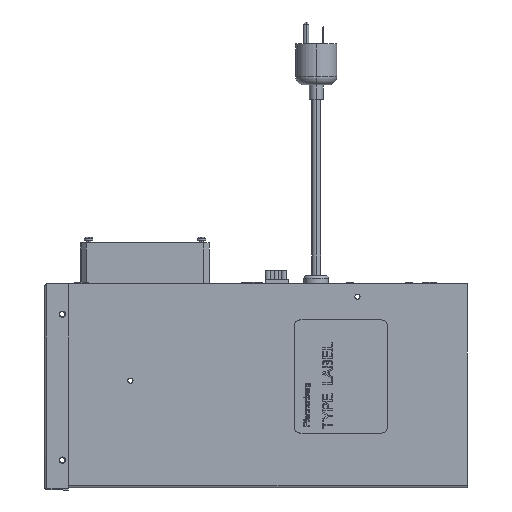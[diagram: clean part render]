
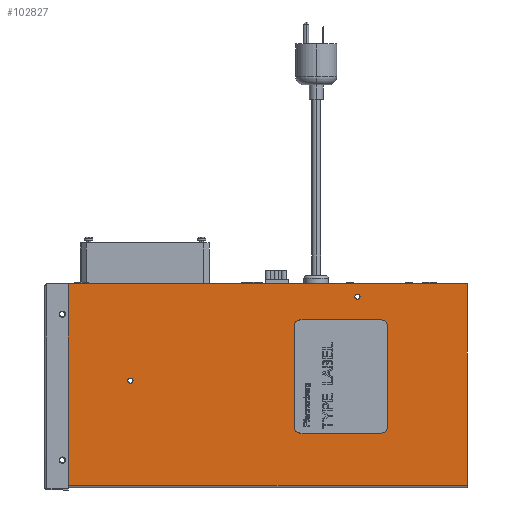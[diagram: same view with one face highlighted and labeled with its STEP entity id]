
A CAD part, left-side view. The second image highlights one B-rep face of the part: STEP entity #102827.
In plain terms, the highlighted planar face has unit normal (-1, 0, 0).
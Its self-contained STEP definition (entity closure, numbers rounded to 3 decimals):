
#1494 = DIRECTION ( 'NONE',  ( 0., -1., 0. ) ) ;
#3864 = VERTEX_POINT ( 'NONE', #60565 ) ;
#5973 = CARTESIAN_POINT ( 'NONE',  ( -88.9, 0., 187.3 ) ) ;
#6125 = EDGE_CURVE ( 'NONE', #113274, #107731, #129959, .T. ) ;
#7509 = ORIENTED_EDGE ( 'NONE', *, *, #89385, .T. ) ;
#7720 = CIRCLE ( 'NONE', #16672, 2.4 ) ;
#8122 = ORIENTED_EDGE ( 'NONE', *, *, #93809, .F. ) ;
#10015 = DIRECTION ( 'NONE',  ( 0., 0., 1. ) ) ;
#10178 = CARTESIAN_POINT ( 'NONE',  ( -88.9, 287.882, 12.009 ) ) ;
#10319 = ORIENTED_EDGE ( 'NONE', *, *, #56201, .T. ) ;
#13101 = CARTESIAN_POINT ( 'NONE',  ( -88.9, 390., 187.3 ) ) ;
#15833 = DIRECTION ( 'NONE',  ( 0., 0., 1. ) ) ;
#16355 = CARTESIAN_POINT ( 'NONE',  ( -88.9, 11.429, 0. ) ) ;
#16672 = AXIS2_PLACEMENT_3D ( 'NONE', #149046, #73411, #161778 ) ;
#19374 = EDGE_LOOP ( 'NONE', ( #26591, #61869 ) ) ;
#20852 = VECTOR ( 'NONE', #43423, 1000. ) ;
#21216 = VERTEX_POINT ( 'NONE', #112598 ) ;
#22868 = DIRECTION ( 'NONE',  ( 0., 0., 1. ) ) ;
#24797 = EDGE_CURVE ( 'NONE', #107731, #21216, #44232, .T. ) ;
#25942 = CARTESIAN_POINT ( 'NONE',  ( -88.9, 200.714, -189.286 ) ) ;
#26564 = FACE_OUTER_BOUND ( 'NONE', #150049, .T. ) ;
#26591 = ORIENTED_EDGE ( 'NONE', *, *, #158272, .F. ) ;
#34653 = CIRCLE ( 'NONE', #120213, 2.4 ) ;
#35145 = VECTOR ( 'NONE', #109493, 1000. ) ;
#35825 = CARTESIAN_POINT ( 'NONE',  ( -88.9, 13.72, 28.2 ) ) ;
#36920 = EDGE_CURVE ( 'NONE', #109295, #3864, #50251, .T. ) ;
#40236 = AXIS2_PLACEMENT_3D ( 'NONE', #130961, #55417, #143751 ) ;
#41092 = CIRCLE ( 'NONE', #40236, 2.4 ) ;
#42920 = ORIENTED_EDGE ( 'NONE', *, *, #48911, .F. ) ;
#43423 = DIRECTION ( 'NONE',  ( 0., 0., 1. ) ) ;
#43900 = VERTEX_POINT ( 'NONE', #55611 ) ;
#44232 = LINE ( 'NONE', #25942, #73808 ) ;
#44622 = CARTESIAN_POINT ( 'NONE',  ( -88.9, 390., 0. ) ) ;
#45054 = AXIS2_PLACEMENT_3D ( 'NONE', #44622, #132847, #57291 ) ;
#45549 = VERTEX_POINT ( 'NONE', #120120 ) ;
#47182 = ORIENTED_EDGE ( 'NONE', *, *, #6125, .T. ) ;
#47484 = AXIS2_PLACEMENT_3D ( 'NONE', #161246, #85568, #10015 ) ;
#47746 = AXIS2_PLACEMENT_3D ( 'NONE', #60590, #148916, #73272 ) ;
#47976 = AXIS2_PLACEMENT_3D ( 'NONE', #10178, #98403, #22868 ) ;
#48469 = DIRECTION ( 'NONE',  ( 0., 0., 1. ) ) ;
#48911 = EDGE_CURVE ( 'NONE', #129838, #43900, #34653, .T. ) ;
#50251 = CIRCLE ( 'NONE', #47484, 2.4 ) ;
#55250 = ORIENTED_EDGE ( 'NONE', *, *, #24797, .T. ) ;
#55417 = DIRECTION ( 'NONE',  ( -1., 0., 0. ) ) ;
#55611 = CARTESIAN_POINT ( 'NONE',  ( -88.9, 287.882, 9.609 ) ) ;
#55746 = EDGE_CURVE ( 'NONE', #88043, #89934, #133858, .T. ) ;
#56201 = EDGE_CURVE ( 'NONE', #21216, #45549, #127833, .T. ) ;
#57291 = DIRECTION ( 'NONE',  ( 0., 0., -1. ) ) ;
#58308 = EDGE_LOOP ( 'NONE', ( #42920, #95051 ) ) ;
#59171 = CIRCLE ( 'NONE', #148697, 2.4 ) ;
#59350 = EDGE_CURVE ( 'NONE', #43900, #129838, #72159, .T. ) ;
#60117 = FACE_BOUND ( 'NONE', #131523, .T. ) ;
#60565 = CARTESIAN_POINT ( 'NONE',  ( -88.9, 13.72, 30.6 ) ) ;
#60590 = CARTESIAN_POINT ( 'NONE',  ( -88.9, 13.72, 163.769 ) ) ;
#61869 = ORIENTED_EDGE ( 'NONE', *, *, #36920, .F. ) ;
#66699 = ORIENTED_EDGE ( 'NONE', *, *, #129626, .F. ) ;
#67977 = ORIENTED_EDGE ( 'NONE', *, *, #70637, .F. ) ;
#70329 = CARTESIAN_POINT ( 'NONE',  ( -88.9, 390., 2.129 ) ) ;
#70637 = EDGE_CURVE ( 'NONE', #89934, #88043, #41092, .T. ) ;
#71622 = CARTESIAN_POINT ( 'NONE',  ( -88.9, 287.882, 12.009 ) ) ;
#72159 = CIRCLE ( 'NONE', #47976, 2.4 ) ;
#72877 = EDGE_CURVE ( 'NONE', #113274, #147546, #121464, .T. ) ;
#73232 = CARTESIAN_POINT ( 'NONE',  ( -88.9, 76.992, 90.033 ) ) ;
#73272 = DIRECTION ( 'NONE',  ( 0., 0., 1. ) ) ;
#73411 = DIRECTION ( 'NONE',  ( -1., 0., 0. ) ) ;
#73808 = VECTOR ( 'NONE', #144380, 1000. ) ;
#79023 = CARTESIAN_POINT ( 'NONE',  ( -88.9, 390., 187.3 ) ) ;
#81839 = LINE ( 'NONE', #118395, #107481 ) ;
#83145 = CIRCLE ( 'NONE', #153417, 2.4 ) ;
#84335 = DIRECTION ( 'NONE',  ( 0., 0., 1. ) ) ;
#85568 = DIRECTION ( 'NONE',  ( -1., 0., 0. ) ) ;
#85893 = DIRECTION ( 'NONE',  ( 0., 0., 1. ) ) ;
#88043 = VERTEX_POINT ( 'NONE', #118201 ) ;
#89385 = EDGE_CURVE ( 'NONE', #45549, #134062, #81839, .T. ) ;
#89676 = VECTOR ( 'NONE', #1494, 1000. ) ;
#89934 = VERTEX_POINT ( 'NONE', #154746 ) ;
#93618 = FACE_BOUND ( 'NONE', #19374, .T. ) ;
#93638 = CARTESIAN_POINT ( 'NONE',  ( -88.9, 390., 0. ) ) ;
#93809 = EDGE_CURVE ( 'NONE', #149708, #125277, #83145, .T. ) ;
#95051 = ORIENTED_EDGE ( 'NONE', *, *, #59350, .F. ) ;
#98403 = DIRECTION ( 'NONE',  ( -1., 0., 0. ) ) ;
#102827 = ADVANCED_FACE ( 'NONE', ( #127188, #160879, #93618, #60117, #26564 ), #107475, .F. ) ;
#103728 = ORIENTED_EDGE ( 'NONE', *, *, #72877, .F. ) ;
#107475 = PLANE ( 'NONE',  #45054 ) ;
#107481 = VECTOR ( 'NONE', #15833, 1000. ) ;
#107638 = EDGE_CURVE ( 'NONE', #147546, #134062, #131161, .T. ) ;
#107731 = VERTEX_POINT ( 'NONE', #16355 ) ;
#109295 = VERTEX_POINT ( 'NONE', #134559 ) ;
#109493 = DIRECTION ( 'NONE',  ( 0., -1., 0. ) ) ;
#112111 = CARTESIAN_POINT ( 'NONE',  ( -88.9, 76.992, 87.633 ) ) ;
#112138 = DIRECTION ( 'NONE',  ( 0., -1., 0. ) ) ;
#112598 = CARTESIAN_POINT ( 'NONE',  ( -88.9, 9.3, 2.129 ) ) ;
#113274 = VERTEX_POINT ( 'NONE', #160435 ) ;
#118201 = CARTESIAN_POINT ( 'NONE',  ( -88.9, 13.72, 166.169 ) ) ;
#118395 = CARTESIAN_POINT ( 'NONE',  ( -88.9, 0., 0. ) ) ;
#120120 = CARTESIAN_POINT ( 'NONE',  ( -88.9, 0., 2.129 ) ) ;
#120213 = AXIS2_PLACEMENT_3D ( 'NONE', #71622, #159998, #84335 ) ;
#121464 = LINE ( 'NONE', #131635, #20852 ) ;
#123988 = DIRECTION ( 'NONE',  ( -1., 0., 0. ) ) ;
#125277 = VERTEX_POINT ( 'NONE', #127350 ) ;
#125999 = VECTOR ( 'NONE', #112138, 1000. ) ;
#127188 = FACE_BOUND ( 'NONE', #149383, .T. ) ;
#127350 = CARTESIAN_POINT ( 'NONE',  ( -88.9, 76.992, 92.433 ) ) ;
#127833 = LINE ( 'NONE', #70329, #35145 ) ;
#128427 = CARTESIAN_POINT ( 'NONE',  ( -88.9, 287.882, 14.409 ) ) ;
#129626 = EDGE_CURVE ( 'NONE', #125277, #149708, #7720, .T. ) ;
#129838 = VERTEX_POINT ( 'NONE', #128427 ) ;
#129959 = LINE ( 'NONE', #93638, #125999 ) ;
#130961 = CARTESIAN_POINT ( 'NONE',  ( -88.9, 13.72, 163.769 ) ) ;
#131161 = LINE ( 'NONE', #13101, #89676 ) ;
#131523 = EDGE_LOOP ( 'NONE', ( #147616, #67977 ) ) ;
#131635 = CARTESIAN_POINT ( 'NONE',  ( -88.9, 390., 0. ) ) ;
#132847 = DIRECTION ( 'NONE',  ( 1., 0., 0. ) ) ;
#133858 = CIRCLE ( 'NONE', #47746, 2.4 ) ;
#134062 = VERTEX_POINT ( 'NONE', #5973 ) ;
#134559 = CARTESIAN_POINT ( 'NONE',  ( -88.9, 13.72, 25.8 ) ) ;
#137388 = ORIENTED_EDGE ( 'NONE', *, *, #107638, .F. ) ;
#143751 = DIRECTION ( 'NONE',  ( 0., 0., 1. ) ) ;
#144380 = DIRECTION ( 'NONE',  ( 0., -0.707, 0.707 ) ) ;
#147546 = VERTEX_POINT ( 'NONE', #79023 ) ;
#147616 = ORIENTED_EDGE ( 'NONE', *, *, #55746, .F. ) ;
#148697 = AXIS2_PLACEMENT_3D ( 'NONE', #35825, #123988, #48469 ) ;
#148916 = DIRECTION ( 'NONE',  ( -1., 0., 0. ) ) ;
#149046 = CARTESIAN_POINT ( 'NONE',  ( -88.9, 76.992, 90.033 ) ) ;
#149383 = EDGE_LOOP ( 'NONE', ( #66699, #8122 ) ) ;
#149708 = VERTEX_POINT ( 'NONE', #112111 ) ;
#150049 = EDGE_LOOP ( 'NONE', ( #55250, #10319, #7509, #137388, #103728, #47182 ) ) ;
#153417 = AXIS2_PLACEMENT_3D ( 'NONE', #73232, #161594, #85893 ) ;
#154746 = CARTESIAN_POINT ( 'NONE',  ( -88.9, 13.72, 161.369 ) ) ;
#158272 = EDGE_CURVE ( 'NONE', #3864, #109295, #59171, .T. ) ;
#159998 = DIRECTION ( 'NONE',  ( -1., 0., 0. ) ) ;
#160435 = CARTESIAN_POINT ( 'NONE',  ( -88.9, 390., 0. ) ) ;
#160879 = FACE_BOUND ( 'NONE', #58308, .T. ) ;
#161246 = CARTESIAN_POINT ( 'NONE',  ( -88.9, 13.72, 28.2 ) ) ;
#161594 = DIRECTION ( 'NONE',  ( -1., 0., 0. ) ) ;
#161778 = DIRECTION ( 'NONE',  ( 0., 0., 1. ) ) ;
